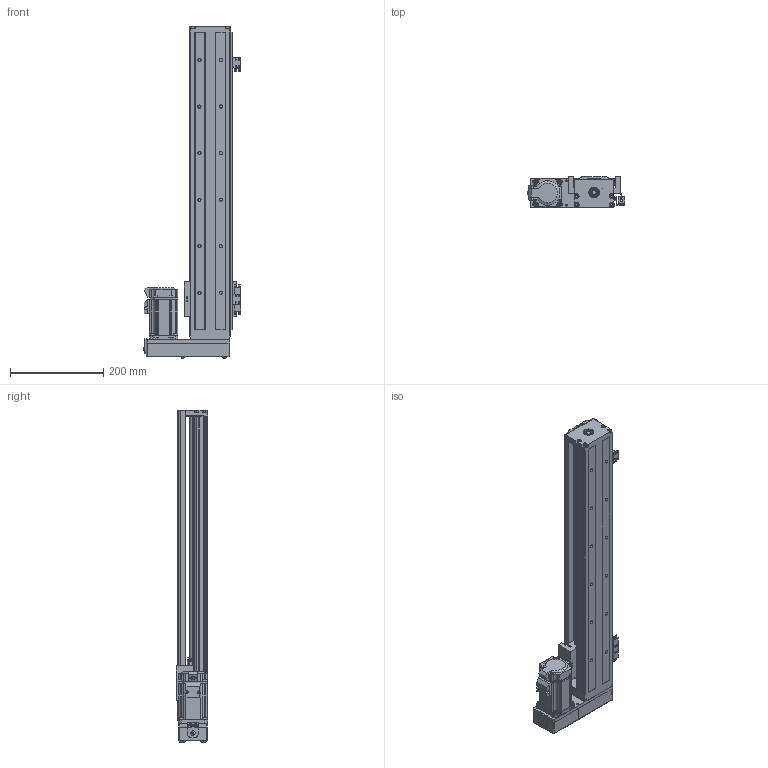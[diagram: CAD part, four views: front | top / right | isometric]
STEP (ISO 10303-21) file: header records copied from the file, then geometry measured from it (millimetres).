
FILE_DESCRIPTION (( 'STEP AP214' ), '1' );
FILE_NAME ('SFKK86-640A1-HL0C.STEP', '2023-02-17T08:53:12', ( '微软用户' ), ( '微软中国' ), 'SwSTEP 2.0', 'SolidWorks 2018', '' );
FILE_SCHEMA (( 'AUTOMOTIVE_DESIGN' ));
Length unit declared in the file: millimetre
Products named in the file (12): SFKK86-LR 憤癹寢耋_640; hexagon socket countersunk head screws gb_GB_FASTENER_SCREWS_HSCHS M4X10-N; 极限轨道与开关固定座组合_640; 开关固定座：KK-674S2-F; 带盖挡光片：KK-86-S2-D1; SFKK86-A1-C; SFKK86-640A1-HL0C; SFKK86-H0_KKR86-ZT-P-640; SFKK86-H0-侂狟400W耜蚾; SFKK86-CU_640; SX674嫖萇羲壽; hexagon socket countersunk head screws gb_GB_FASTENER_SCREWS_HSCHS M3X8-N
Assembly tree (18 placements, depth 3):
  SFKK86-640A1-HL0C
    SFKK86-H0_KKR86-ZT-P-640
    SFKK86-A1-C
    hexagon socket countersunk head screws gb_GB_FASTENER_SCREWS_HSCHS M3X8-N  x2
    SFKK86-CU_640
    hexagon socket countersunk head screws gb_GB_FASTENER_SCREWS_HSCHS M4X10-N  x4
    SFKK86-H0-侂狟400W耜蚾
    极限轨道与开关固定座组合_640
      SFKK86-LR 憤癹寢耋_640
      开关固定座：KK-674S2-F  x2
    SX674嫖萇羲壽  x3
    带盖挡光片：KK-86-S2-D1
Bounding box: 208.5 x 68 x 713.2 mm (x, y, z)
Volume: 1689519.3 mm3; surface area: 684124.4 mm2
Topology: 38 solids, 87 shells, 3684 faces, 9811 edges, 6277 vertices
Faces by surface type: plane 1629, cylinder 1482, cone 337, torus 105, bspline 98, sphere 33
Entity records: 137356 total; most frequent: CARTESIAN_POINT 28760, DIRECTION 18490, ORIENTED_EDGE 17706, EDGE_CURVE 9136, AXIS2_PLACEMENT_3D 6661, VERTEX_POINT 5951, LINE 5168, VECTOR 5168
